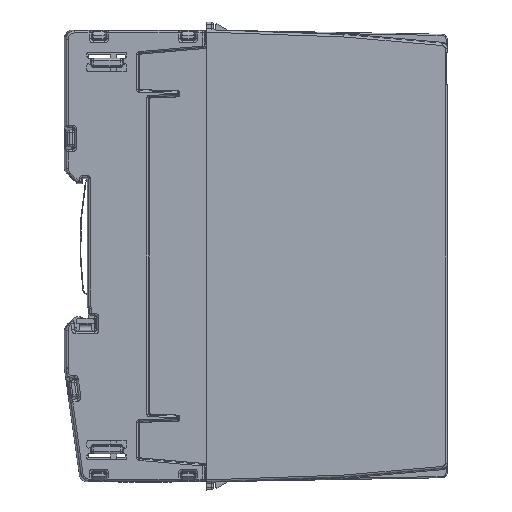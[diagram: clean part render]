
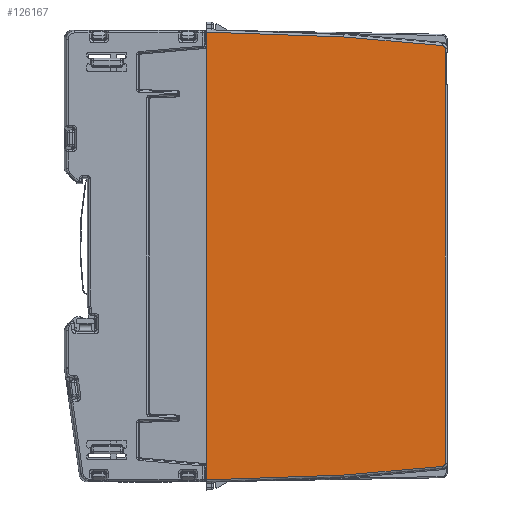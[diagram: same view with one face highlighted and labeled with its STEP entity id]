
A CAD part, left-side view. The second image highlights one B-rep face of the part: STEP entity #126167.
In plain terms, the highlighted planar face has unit normal (-1, -0.018, 0).
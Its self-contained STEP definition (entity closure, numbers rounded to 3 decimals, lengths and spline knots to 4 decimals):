
#11185=FACE_OUTER_BOUND('',#18070,.T.);
#18070=EDGE_LOOP('',(#100873,#100874,#100875,#100876,#100877,#100878,#100879,
#100880,#100881,#100882));
#29427=LINE('',#214329,#42149);
#29428=LINE('',#214331,#42150);
#29429=LINE('',#214335,#42151);
#29430=LINE('',#214339,#42152);
#29431=LINE('',#214341,#42153);
#29432=LINE('',#214343,#42154);
#29433=LINE('',#214345,#42155);
#29434=LINE('',#214346,#42156);
#42149=VECTOR('',#161336,39.3701);
#42150=VECTOR('',#161337,39.3701);
#42151=VECTOR('',#161340,39.3701);
#42152=VECTOR('',#161343,39.3701);
#42153=VECTOR('',#161344,39.3701);
#42154=VECTOR('',#161345,39.3701);
#42155=VECTOR('',#161346,39.3701);
#42156=VECTOR('',#161347,39.3701);
#46729=ELLIPSE('',#135077,0.0315,0.0315);
#46730=ELLIPSE('',#135078,0.0315,0.0315);
#55354=VERTEX_POINT('',#214327);
#55355=VERTEX_POINT('',#214328);
#55356=VERTEX_POINT('',#214330);
#55357=VERTEX_POINT('',#214332);
#55358=VERTEX_POINT('',#214334);
#55359=VERTEX_POINT('',#214336);
#55360=VERTEX_POINT('',#214338);
#55361=VERTEX_POINT('',#214340);
#55362=VERTEX_POINT('',#214342);
#55363=VERTEX_POINT('',#214344);
#71055=EDGE_CURVE('',#55354,#55355,#29427,.T.);
#71056=EDGE_CURVE('',#55355,#55356,#29428,.T.);
#71057=EDGE_CURVE('',#55356,#55357,#46729,.T.);
#71058=EDGE_CURVE('',#55357,#55358,#29429,.T.);
#71059=EDGE_CURVE('',#55358,#55359,#46730,.T.);
#71060=EDGE_CURVE('',#55359,#55360,#29430,.T.);
#71061=EDGE_CURVE('',#55360,#55361,#29431,.T.);
#71062=EDGE_CURVE('',#55361,#55362,#29432,.T.);
#71063=EDGE_CURVE('',#55363,#55362,#29433,.T.);
#71064=EDGE_CURVE('',#55363,#55354,#29434,.T.);
#100873=ORIENTED_EDGE('',*,*,#71055,.T.);
#100874=ORIENTED_EDGE('',*,*,#71056,.T.);
#100875=ORIENTED_EDGE('',*,*,#71057,.T.);
#100876=ORIENTED_EDGE('',*,*,#71058,.T.);
#100877=ORIENTED_EDGE('',*,*,#71059,.T.);
#100878=ORIENTED_EDGE('',*,*,#71060,.T.);
#100879=ORIENTED_EDGE('',*,*,#71061,.T.);
#100880=ORIENTED_EDGE('',*,*,#71062,.T.);
#100881=ORIENTED_EDGE('',*,*,#71063,.F.);
#100882=ORIENTED_EDGE('',*,*,#71064,.T.);
#114014=PLANE('',#135076);
#126167=ADVANCED_FACE('',(#11185),#114014,.T.);
#135076=AXIS2_PLACEMENT_3D('',#214326,#161334,#161335);
#135077=AXIS2_PLACEMENT_3D('',#214333,#161338,#161339);
#135078=AXIS2_PLACEMENT_3D('',#214337,#161341,#161342);
#161334=DIRECTION('center_axis',(-1.,-0.017,
0.));
#161335=DIRECTION('ref_axis',(-0.017,1.,0.));
#161336=DIRECTION('',(0.017,-0.999,0.035));
#161337=DIRECTION('',(0.017,-0.996,0.087));
#161338=DIRECTION('center_axis',(-1.,-0.017,
0.));
#161339=DIRECTION('ref_axis',(0.017,-1.,0.));
#161340=DIRECTION('',(0.,0.,1.));
#161341=DIRECTION('center_axis',(-1.,-0.017,
0.));
#161342=DIRECTION('ref_axis',(0.017,-1.,0.));
#161343=DIRECTION('',(-0.017,0.996,0.087));
#161344=DIRECTION('',(-0.017,0.999,0.035));
#161345=DIRECTION('',(0.,0.,-1.));
#161346=DIRECTION('',(0.,0.,1.));
#161347=DIRECTION('',(0.,0.,-1.));
#214326=CARTESIAN_POINT('Origin',(-0.0295,-0.4749,
-2.0669));
#214327=CARTESIAN_POINT('',(-0.0227,-0.8686,-4.2421));
#214328=CARTESIAN_POINT('',(0.0007,-2.2063,-4.1954));
#214329=CARTESIAN_POINT('',(-0.0282,-0.5512,-4.2532));
#214330=CARTESIAN_POINT('',(0.0174,-3.163,-4.1117));
#214331=CARTESIAN_POINT('',(-0.0261,-0.6728,-4.3296));
#214332=CARTESIAN_POINT('',(0.0179,-3.1918,-4.0803));
#214333=CARTESIAN_POINT('Origin',(0.0173,-3.1603,-4.0803));
#214334=CARTESIAN_POINT('',(0.0179,-3.1918,-0.0535));
#214335=CARTESIAN_POINT('',(0.0179,-3.1918,-0.0535));
#214336=CARTESIAN_POINT('',(0.0174,-3.163,-0.0221));
#214337=CARTESIAN_POINT('Origin',(0.0173,-3.1603,
-0.0535));
#214338=CARTESIAN_POINT('',(0.0007,-2.2063,0.0616));
#214339=CARTESIAN_POINT('',(-0.0261,-0.6728,0.1957));
#214340=CARTESIAN_POINT('',(-0.0227,-0.8686,0.1083));
#214341=CARTESIAN_POINT('',(-0.0282,-0.5512,0.1194));
#214342=CARTESIAN_POINT('',(-0.0227,-0.8686,-0.0312));
#214343=CARTESIAN_POINT('',(-0.0227,-0.8686,0.128));
#214344=CARTESIAN_POINT('',(-0.0227,-0.8686,-4.1027));
#214345=CARTESIAN_POINT('',(-0.0227,-0.8686,-7.5932));
#214346=CARTESIAN_POINT('',(-0.0227,-0.8686,0.128));
